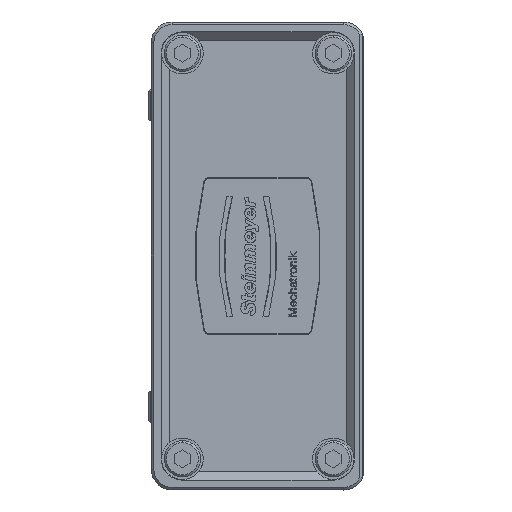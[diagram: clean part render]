
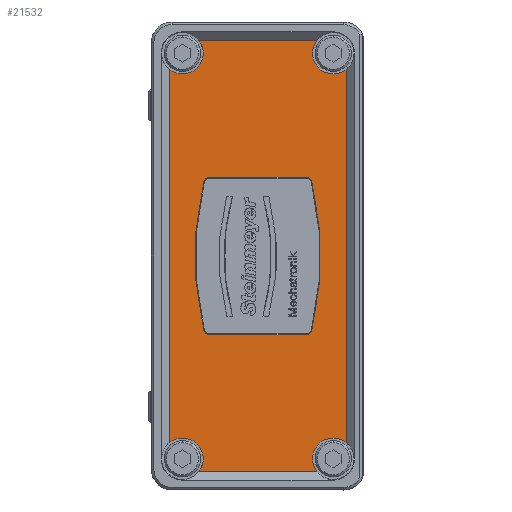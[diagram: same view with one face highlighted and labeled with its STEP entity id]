
A CAD part, left-side view. The second image highlights one B-rep face of the part: STEP entity #21532.
In plain terms, the highlighted planar face has unit normal (-1, 0, 0) as drawn and (0, 0, 1) by its records, which use the part's own axes.
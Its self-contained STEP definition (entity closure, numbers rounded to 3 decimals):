
#2738=CARTESIAN_POINT('',(-39.,6.,132.));
#2739=DIRECTION('',(0.,0.,1.));
#2740=DIRECTION('',(0.781,-0.625,0.));
#2741=AXIS2_PLACEMENT_3D('',#2738,#2739,#2740);
#2746=CARTESIAN_POINT('',(-39.,6.,132.));
#2747=DIRECTION('',(0.,0.,1.));
#2748=DIRECTION('',(0.,1.,0.));
#2749=AXIS2_PLACEMENT_3D('',#2746,#2747,#2748);
#2754=DIRECTION('',(0.,1.,0.));
#2755=VECTOR('',#2754,22.755);
#2756=CARTESIAN_POINT('',(-41.5,9.122,132.));
#2757=LINE('1316',#2756,#2755);
#2761=CARTESIAN_POINT('',(-39.,35.,132.));
#2762=DIRECTION('',(0.,0.,1.));
#2763=DIRECTION('',(-0.625,-0.781,0.));
#2764=AXIS2_PLACEMENT_3D('',#2761,#2762,#2763);
#2769=CARTESIAN_POINT('',(-39.,35.,132.));
#2770=DIRECTION('',(0.,0.,1.));
#2771=DIRECTION('',(0.,-1.,0.));
#2772=AXIS2_PLACEMENT_3D('',#2769,#2770,#2771);
#2777=DIRECTION('',(1.,0.,0.));
#2778=VECTOR('',#2777,71.755);
#2779=CARTESIAN_POINT('',(-35.878,37.5,132.));
#2780=LINE('1319',#2779,#2778);
#2784=CARTESIAN_POINT('',(39.,35.,132.));
#2785=DIRECTION('',(0.,0.,1.));
#2786=DIRECTION('',(-0.781,0.625,0.));
#2787=AXIS2_PLACEMENT_3D('',#2784,#2785,#2786);
#2792=CARTESIAN_POINT('',(39.,35.,132.));
#2793=DIRECTION('',(0.,0.,1.));
#2794=DIRECTION('',(0.,-1.,0.));
#2795=AXIS2_PLACEMENT_3D('',#2792,#2793,#2794);
#2800=DIRECTION('',(0.,-1.,0.));
#2801=VECTOR('',#2800,22.755);
#2802=CARTESIAN_POINT('',(41.5,31.878,132.));
#2803=LINE('1321',#2802,#2801);
#2807=CARTESIAN_POINT('',(39.,6.,132.));
#2808=DIRECTION('',(0.,0.,1.));
#2809=DIRECTION('',(0.625,0.781,0.));
#2810=AXIS2_PLACEMENT_3D('',#2807,#2808,#2809);
#2815=CARTESIAN_POINT('',(39.,6.,132.));
#2816=DIRECTION('',(0.,0.,1.));
#2817=DIRECTION('',(0.,1.,0.));
#2818=AXIS2_PLACEMENT_3D('',#2815,#2816,#2817);
#2823=DIRECTION('',(-1.,0.,0.));
#2824=VECTOR('',#2823,71.755);
#2825=CARTESIAN_POINT('',(35.878,3.5,132.));
#2826=LINE('1324',#2825,#2824);
#2830=CARTESIAN_POINT('',(14.,29.815,132.));
#2831=DIRECTION('',(0.,0.,1.));
#2832=DIRECTION('',(1.,0.,0.));
#2833=AXIS2_PLACEMENT_3D('',#2830,#2831,#2832);
#2838=CARTESIAN_POINT('',(0.,-27.5,132.));
#2839=DIRECTION('',(0.,0.,1.));
#2840=DIRECTION('',(0.237,0.971,0.));
#2841=AXIS2_PLACEMENT_3D('',#2838,#2839,#2840);
#2846=CARTESIAN_POINT('',(-14.,29.815,132.));
#2847=DIRECTION('',(0.,0.,1.));
#2848=DIRECTION('',(-0.237,0.971,0.));
#2849=AXIS2_PLACEMENT_3D('',#2846,#2847,#2848);
#2854=CARTESIAN_POINT('',(-14.,11.185,132.));
#2855=DIRECTION('',(0.,0.,1.));
#2856=DIRECTION('',(-1.,0.,0.));
#2857=AXIS2_PLACEMENT_3D('',#2854,#2855,#2856);
#2862=CARTESIAN_POINT('',(0.,68.5,132.));
#2863=DIRECTION('',(0.,0.,1.));
#2864=DIRECTION('',(-0.237,-0.971,0.));
#2865=AXIS2_PLACEMENT_3D('',#2862,#2863,#2864);
#2870=CARTESIAN_POINT('',(14.,11.185,132.));
#2871=DIRECTION('',(0.,0.,1.));
#2872=DIRECTION('',(0.237,-0.971,0.));
#2873=AXIS2_PLACEMENT_3D('',#2870,#2871,#2872);
#4026=DIRECTION('',(0.,-1.,0.));
#4027=VECTOR('',#4026,18.63);
#4028=CARTESIAN_POINT('',(15.1,29.815,132.));
#4029=LINE('1332',#4028,#4027);
#4061=DIRECTION('',(0.,1.,0.));
#4062=VECTOR('',#4061,18.63);
#4063=CARTESIAN_POINT('',(-15.1,11.185,132.));
#4064=LINE('1328',#4063,#4062);
#17870=CARTESIAN_POINT('',(39.,31.,132.));
#17871=CARTESIAN_POINT('',(41.5,31.878,132.));
#17872=VERTEX_POINT('',#17870);
#17873=VERTEX_POINT('',#17871);
#17879=CARTESIAN_POINT('',(-35.878,3.5,132.));
#17880=CARTESIAN_POINT('',(-39.,10.,132.));
#17881=VERTEX_POINT('',#17879);
#17882=VERTEX_POINT('',#17880);
#17883=CARTESIAN_POINT('',(-41.5,9.122,132.));
#17884=VERTEX_POINT('',#17883);
#17885=CARTESIAN_POINT('',(-41.5,31.878,132.));
#17886=VERTEX_POINT('',#17885);
#17887=CARTESIAN_POINT('',(-39.,31.,132.));
#17888=VERTEX_POINT('',#17887);
#17889=CARTESIAN_POINT('',(-35.878,37.5,132.));
#17890=VERTEX_POINT('',#17889);
#17891=CARTESIAN_POINT('',(35.878,37.5,132.));
#17892=VERTEX_POINT('',#17891);
#17893=CARTESIAN_POINT('',(41.5,9.122,132.));
#17894=VERTEX_POINT('',#17893);
#17895=CARTESIAN_POINT('',(39.,10.,132.));
#17896=VERTEX_POINT('',#17895);
#17897=CARTESIAN_POINT('',(35.878,3.5,132.));
#17898=VERTEX_POINT('',#17897);
#17899=CARTESIAN_POINT('',(15.1,29.815,132.));
#17900=CARTESIAN_POINT('',(14.261,30.884,132.));
#17901=VERTEX_POINT('',#17899);
#17902=VERTEX_POINT('',#17900);
#17903=CARTESIAN_POINT('',(-14.261,30.884,132.));
#17904=VERTEX_POINT('',#17903);
#17905=CARTESIAN_POINT('',(-15.1,29.815,132.));
#17906=VERTEX_POINT('',#17905);
#17907=CARTESIAN_POINT('',(-15.1,11.185,132.));
#17908=VERTEX_POINT('',#17907);
#17909=CARTESIAN_POINT('',(-14.261,10.116,132.));
#17910=VERTEX_POINT('',#17909);
#17911=CARTESIAN_POINT('',(14.261,10.116,132.));
#17912=VERTEX_POINT('',#17911);
#17913=CARTESIAN_POINT('',(15.1,11.185,132.));
#17914=VERTEX_POINT('',#17913);
#21484=CARTESIAN_POINT('',(45.,20.5,132.));
#21485=DIRECTION('',(0.,0.,1.));
#21486=DIRECTION('',(1.,0.,0.));
#21487=AXIS2_PLACEMENT_3D('',#21484,#21485,#21486);
#21488=PLANE('335',#21487);
#21490=ORIENTED_EDGE('1314',*,*,#21489,.T.);
#21492=ORIENTED_EDGE('1315',*,*,#21491,.T.);
#21494=ORIENTED_EDGE('1316',*,*,#21493,.T.);
#21496=ORIENTED_EDGE('1317',*,*,#21495,.T.);
#21498=ORIENTED_EDGE('1318',*,*,#21497,.T.);
#21500=ORIENTED_EDGE('1319',*,*,#21499,.T.);
#21502=ORIENTED_EDGE('1320',*,*,#21501,.T.);
#21503=ORIENTED_EDGE('1308',*,*,#21468,.T.);
#21505=ORIENTED_EDGE('1321',*,*,#21504,.T.);
#21507=ORIENTED_EDGE('1322',*,*,#21506,.T.);
#21509=ORIENTED_EDGE('1323',*,*,#21508,.T.);
#21511=ORIENTED_EDGE('1324',*,*,#21510,.T.);
#21512=EDGE_LOOP('335',(#21490,#21492,#21494,#21496,#21498,#21500,#21502,#21503,
#21505,#21507,#21509,#21511));
#21513=FACE_OUTER_BOUND('335',#21512,.F.);
#21515=ORIENTED_EDGE('1325',*,*,#21514,.T.);
#21517=ORIENTED_EDGE('1326',*,*,#21516,.T.);
#21519=ORIENTED_EDGE('1327',*,*,#21518,.T.);
#21521=ORIENTED_EDGE('1328',*,*,#21520,.F.);
#21523=ORIENTED_EDGE('1329',*,*,#21522,.T.);
#21525=ORIENTED_EDGE('1330',*,*,#21524,.T.);
#21527=ORIENTED_EDGE('1331',*,*,#21526,.T.);
#21529=ORIENTED_EDGE('1332',*,*,#21528,.F.);
#21530=EDGE_LOOP('335',(#21515,#21517,#21519,#21521,#21523,#21525,#21527,
#21529));
#21531=FACE_BOUND('335',#21530,.F.);
#2742=CIRCLE('1314',#2741,4.);
#2750=CIRCLE('1315',#2749,4.);
#2765=CIRCLE('1317',#2764,4.);
#2773=CIRCLE('1318',#2772,4.);
#2788=CIRCLE('1320',#2787,4.);
#2796=CIRCLE('1308',#2795,4.);
#2811=CIRCLE('1322',#2810,4.);
#2819=CIRCLE('1323',#2818,4.);
#2834=CIRCLE('1325',#2833,1.1);
#2842=CIRCLE('1326',#2841,60.1);
#2850=CIRCLE('1327',#2849,1.1);
#2858=CIRCLE('1329',#2857,1.1);
#2866=CIRCLE('1330',#2865,60.1);
#2874=CIRCLE('1331',#2873,1.1);
#21468=EDGE_CURVE('1308',#17872,#17873,#2796,.T.);
#21489=EDGE_CURVE('1314',#17881,#17882,#2742,.T.);
#21491=EDGE_CURVE('1315',#17882,#17884,#2750,.T.);
#21493=EDGE_CURVE('1316',#17884,#17886,#2757,.T.);
#21495=EDGE_CURVE('1317',#17886,#17888,#2765,.T.);
#21497=EDGE_CURVE('1318',#17888,#17890,#2773,.T.);
#21499=EDGE_CURVE('1319',#17890,#17892,#2780,.T.);
#21501=EDGE_CURVE('1320',#17892,#17872,#2788,.T.);
#21504=EDGE_CURVE('1321',#17873,#17894,#2803,.T.);
#21506=EDGE_CURVE('1322',#17894,#17896,#2811,.T.);
#21508=EDGE_CURVE('1323',#17896,#17898,#2819,.T.);
#21510=EDGE_CURVE('1324',#17898,#17881,#2826,.T.);
#21514=EDGE_CURVE('1325',#17901,#17902,#2834,.T.);
#21516=EDGE_CURVE('1326',#17902,#17904,#2842,.T.);
#21518=EDGE_CURVE('1327',#17904,#17906,#2850,.T.);
#21520=EDGE_CURVE('1328',#17908,#17906,#4064,.T.);
#21522=EDGE_CURVE('1329',#17908,#17910,#2858,.T.);
#21524=EDGE_CURVE('1330',#17910,#17912,#2866,.T.);
#21526=EDGE_CURVE('1331',#17912,#17914,#2874,.T.);
#21528=EDGE_CURVE('1332',#17901,#17914,#4029,.T.);
#21532=ADVANCED_FACE('335',(#21513,#21531),#21488,.T.);
